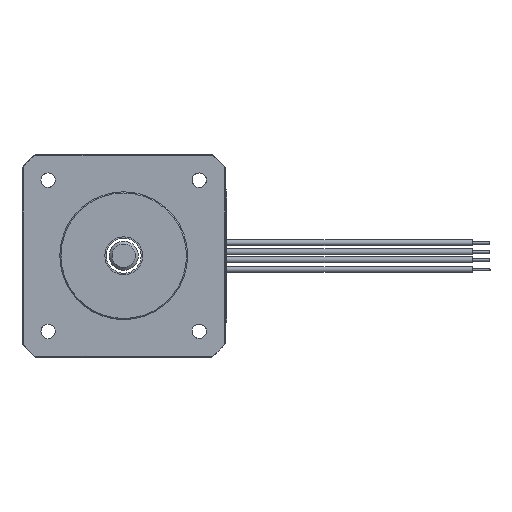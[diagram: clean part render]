
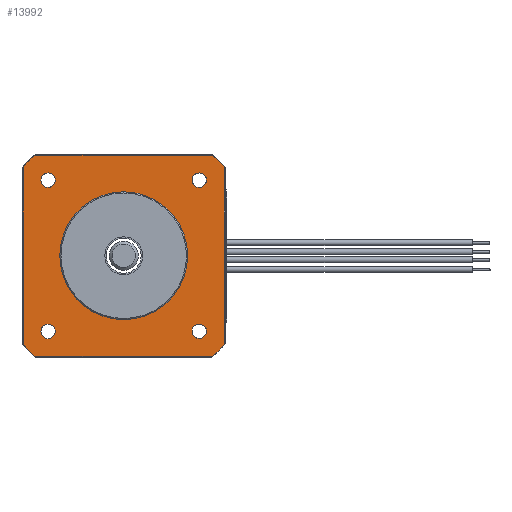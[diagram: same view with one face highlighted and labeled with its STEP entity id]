
A CAD part, left-side view. The second image highlights one B-rep face of the part: STEP entity #13992.
In plain terms, the highlighted planar face has unit normal (-1, 0, 0).
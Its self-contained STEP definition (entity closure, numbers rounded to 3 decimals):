
#12221=CARTESIAN_POINT('',(-6.,-17.3,15.308));
#12222=VERTEX_POINT('',#12221);
#12223=CARTESIAN_POINT('',(-6.,-17.3,-15.308));
#12224=VERTEX_POINT('',#12223);
#12225=CARTESIAN_POINT('',(-6.,-17.3,15.308));
#12226=DIRECTION('',(0.,0.,-1.));
#12227=VECTOR('',#12226,30.615);
#12228=LINE('',#12225,#12227);
#12229=EDGE_CURVE('',#12222,#12224,#12228,.T.);
#12252=CARTESIAN_POINT('',(-6.,-15.308,-17.3));
#12253=VERTEX_POINT('',#12252);
#12264=CARTESIAN_POINT('',(-6.,0.,0.));
#12265=DIRECTION('',(0.,-0.749,-0.663));
#12266=DIRECTION('',(1.,-0.,0.));
#12267=AXIS2_PLACEMENT_3D('',#12264,#12266,#12265);
#12268=CIRCLE('',#12267,23.1);
#12269=EDGE_CURVE('',#12224,#12253,#12268,.T.);
#12450=CARTESIAN_POINT('',(-6.,-15.308,17.3));
#12451=VERTEX_POINT('',#12450);
#12458=CARTESIAN_POINT('',(-6.,0.,0.));
#12459=DIRECTION('',(0.,-0.663,0.749));
#12460=DIRECTION('',(1.,0.,0.));
#12461=AXIS2_PLACEMENT_3D('',#12458,#12460,#12459);
#12462=CIRCLE('',#12461,23.1);
#12463=EDGE_CURVE('',#12451,#12222,#12462,.T.);
#12473=CARTESIAN_POINT('',(-6.,-11.75,-13.));
#12474=VERTEX_POINT('',#12473);
#12481=CARTESIAN_POINT('',(-6.,-14.25,-13.));
#12482=VERTEX_POINT('',#12481);
#12483=CARTESIAN_POINT('',(-6.,-13.,-13.));
#12484=DIRECTION('',(0.,1.,0.));
#12485=DIRECTION('',(-1.,0.,0.));
#12486=AXIS2_PLACEMENT_3D('',#12483,#12485,#12484);
#12487=CIRCLE('',#12486,1.25);
#12488=EDGE_CURVE('',#12474,#12482,#12487,.T.);
#12510=CARTESIAN_POINT('',(-6.,-13.,-13.));
#12511=DIRECTION('',(0.,-1.,0.));
#12512=DIRECTION('',(-1.,0.,0.));
#12513=AXIS2_PLACEMENT_3D('',#12510,#12512,#12511);
#12514=CIRCLE('',#12513,1.25);
#12515=EDGE_CURVE('',#12482,#12474,#12514,.T.);
#12527=CARTESIAN_POINT('',(-6.,15.308,-17.3));
#12528=VERTEX_POINT('',#12527);
#12529=CARTESIAN_POINT('',(-6.,-15.308,-17.3));
#12530=DIRECTION('',(0.,1.,0.));
#12531=VECTOR('',#12530,30.615);
#12532=LINE('',#12529,#12531);
#12533=EDGE_CURVE('',#12253,#12528,#12532,.T.);
#12551=CARTESIAN_POINT('',(-6.,17.3,-15.308));
#12552=VERTEX_POINT('',#12551);
#12570=CARTESIAN_POINT('',(-6.,0.,0.));
#12571=DIRECTION('',(0.,0.663,-0.749));
#12572=DIRECTION('',(1.,0.,0.));
#12573=AXIS2_PLACEMENT_3D('',#12570,#12572,#12571);
#12574=CIRCLE('',#12573,23.1);
#12575=EDGE_CURVE('',#12528,#12552,#12574,.T.);
#12648=CARTESIAN_POINT('',(-6.,13.,-11.75));
#12649=VERTEX_POINT('',#12648);
#12656=CARTESIAN_POINT('',(-6.,13.,-14.25));
#12657=VERTEX_POINT('',#12656);
#12658=CARTESIAN_POINT('',(-6.,13.,-13.));
#12659=DIRECTION('',(0.,0.,1.));
#12660=DIRECTION('',(-1.,0.,0.));
#12661=AXIS2_PLACEMENT_3D('',#12658,#12660,#12659);
#12662=CIRCLE('',#12661,1.25);
#12663=EDGE_CURVE('',#12649,#12657,#12662,.T.);
#12685=CARTESIAN_POINT('',(-6.,13.,-13.));
#12686=DIRECTION('',(0.,0.,-1.));
#12687=DIRECTION('',(-1.,0.,0.));
#12688=AXIS2_PLACEMENT_3D('',#12685,#12687,#12686);
#12689=CIRCLE('',#12688,1.25);
#12690=EDGE_CURVE('',#12657,#12649,#12689,.T.);
#12722=CARTESIAN_POINT('',(-6.,11.75,13.));
#12723=VERTEX_POINT('',#12722);
#12730=CARTESIAN_POINT('',(-6.,14.25,13.));
#12731=VERTEX_POINT('',#12730);
#12732=CARTESIAN_POINT('',(-6.,13.,13.));
#12733=DIRECTION('',(0.,-1.,0.));
#12734=DIRECTION('',(-1.,0.,0.));
#12735=AXIS2_PLACEMENT_3D('',#12732,#12734,#12733);
#12736=CIRCLE('',#12735,1.25);
#12737=EDGE_CURVE('',#12723,#12731,#12736,.T.);
#12759=CARTESIAN_POINT('',(-6.,13.,13.));
#12760=DIRECTION('',(0.,1.,0.));
#12761=DIRECTION('',(-1.,0.,0.));
#12762=AXIS2_PLACEMENT_3D('',#12759,#12761,#12760);
#12763=CIRCLE('',#12762,1.25);
#12764=EDGE_CURVE('',#12731,#12723,#12763,.T.);
#12878=CARTESIAN_POINT('',(-6.,-13.,11.75));
#12879=VERTEX_POINT('',#12878);
#12886=CARTESIAN_POINT('',(-6.,-13.,14.25));
#12887=VERTEX_POINT('',#12886);
#12888=CARTESIAN_POINT('',(-6.,-13.,13.));
#12889=DIRECTION('',(0.,0.,-1.));
#12890=DIRECTION('',(-1.,0.,0.));
#12891=AXIS2_PLACEMENT_3D('',#12888,#12890,#12889);
#12892=CIRCLE('',#12891,1.25);
#12893=EDGE_CURVE('',#12879,#12887,#12892,.T.);
#12915=CARTESIAN_POINT('',(-6.,-13.,13.));
#12916=DIRECTION('',(0.,0.,1.));
#12917=DIRECTION('',(-1.,0.,0.));
#12918=AXIS2_PLACEMENT_3D('',#12915,#12917,#12916);
#12919=CIRCLE('',#12918,1.25);
#12920=EDGE_CURVE('',#12887,#12879,#12919,.T.);
#13921=CARTESIAN_POINT('',(-6.,0.,0.));
#13922=DIRECTION('',(0.,0.,-1.));
#13923=DIRECTION('',(-1.,-0.,-0.));
#13924=AXIS2_PLACEMENT_3D('',#13921,#13923,#13922);
#13925=PLANE('',#13924);
#13926=CARTESIAN_POINT('',(-6.,17.3,15.308));
#13927=VERTEX_POINT('',#13926);
#13928=CARTESIAN_POINT('',(-6.,17.3,15.308));
#13929=DIRECTION('',(0.,0.,-1.));
#13930=VECTOR('',#13929,30.615);
#13931=LINE('',#13928,#13930);
#13932=EDGE_CURVE('',#13927,#12552,#13931,.T.);
#13933=ORIENTED_EDGE('E1236',*,*,#13932,.T.);
#13934=ORIENTED_EDGE('E1236',*,*,#12575,.F.);
#13935=ORIENTED_EDGE('E1236',*,*,#12533,.F.);
#13936=ORIENTED_EDGE('E1236',*,*,#12269,.F.);
#13937=ORIENTED_EDGE('E1236',*,*,#12229,.F.);
#13938=ORIENTED_EDGE('E1236',*,*,#12463,.F.);
#13939=CARTESIAN_POINT('',(-6.,15.308,17.3));
#13940=VERTEX_POINT('',#13939);
#13941=CARTESIAN_POINT('',(-6.,-15.308,17.3));
#13942=DIRECTION('',(0.,1.,0.));
#13943=VECTOR('',#13942,30.615);
#13944=LINE('',#13941,#13943);
#13945=EDGE_CURVE('',#12451,#13940,#13944,.T.);
#13946=ORIENTED_EDGE('E1237',*,*,#13945,.T.);
#13947=CARTESIAN_POINT('',(-6.,0.,0.));
#13948=DIRECTION('',(0.,0.663,0.749));
#13949=DIRECTION('',(-1.,0.,0.));
#13950=AXIS2_PLACEMENT_3D('',#13947,#13949,#13948);
#13951=CIRCLE('',#13950,23.1);
#13952=EDGE_CURVE('',#13940,#13927,#13951,.T.);
#13953=ORIENTED_EDGE('E1238',*,*,#13952,.T.);
#13954=EDGE_LOOP('',(#13933,#13934,#13935,#13936,#13937,#13938,#13946,#13953));
#13955=FACE_OUTER_BOUND('',#13954,.T.);
#13956=CARTESIAN_POINT('',(-6.,11.,0.));
#13957=VERTEX_POINT('',#13956);
#13958=CARTESIAN_POINT('',(-6.,-11.,0.));
#13959=VERTEX_POINT('',#13958);
#13960=CARTESIAN_POINT('',(-6.,0.,0.));
#13961=DIRECTION('',(0.,1.,0.));
#13962=DIRECTION('',(1.,0.,0.));
#13963=AXIS2_PLACEMENT_3D('',#13960,#13962,#13961);
#13964=CIRCLE('',#13963,11.);
#13965=EDGE_CURVE('',#13957,#13959,#13964,.T.);
#13966=ORIENTED_EDGE('E1239',*,*,#13965,.T.);
#13967=CARTESIAN_POINT('',(-6.,0.,0.));
#13968=DIRECTION('',(0.,-1.,0.));
#13969=DIRECTION('',(1.,0.,0.));
#13970=AXIS2_PLACEMENT_3D('',#13967,#13969,#13968);
#13971=CIRCLE('',#13970,11.);
#13972=EDGE_CURVE('',#13959,#13957,#13971,.T.);
#13973=ORIENTED_EDGE('E1240',*,*,#13972,.T.);
#13974=EDGE_LOOP('',(#13966,#13973));
#13975=FACE_BOUND('',#13974,.T.);
#13976=ORIENTED_EDGE('',*,*,#12515,.F.);
#13977=ORIENTED_EDGE('',*,*,#12488,.F.);
#13978=EDGE_LOOP('',(#13976,#13977));
#13979=FACE_BOUND('',#13978,.T.);
#13980=ORIENTED_EDGE('',*,*,#12690,.F.);
#13981=ORIENTED_EDGE('',*,*,#12663,.F.);
#13982=EDGE_LOOP('',(#13980,#13981));
#13983=FACE_BOUND('',#13982,.T.);
#13984=ORIENTED_EDGE('',*,*,#12764,.F.);
#13985=ORIENTED_EDGE('',*,*,#12737,.F.);
#13986=EDGE_LOOP('',(#13984,#13985));
#13987=FACE_BOUND('',#13986,.T.);
#13988=ORIENTED_EDGE('',*,*,#12920,.F.);
#13989=ORIENTED_EDGE('',*,*,#12893,.F.);
#13990=EDGE_LOOP('',(#13988,#13989));
#13991=FACE_BOUND('',#13990,.T.);
#13992=ADVANCED_FACE('F379',(#13955,#13975,#13979,#13983,#13987,#13991),#13925,.T.);
